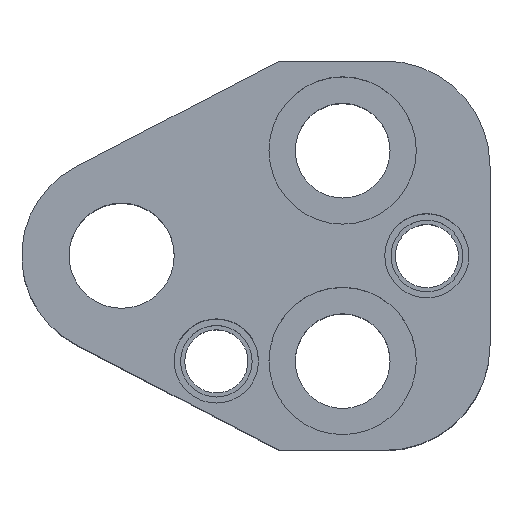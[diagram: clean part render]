
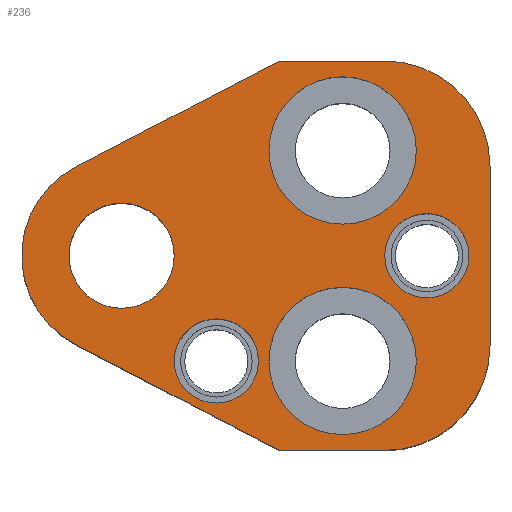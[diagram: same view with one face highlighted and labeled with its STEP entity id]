
A CAD part, top view. The second image highlights one B-rep face of the part: STEP entity #236.
In plain terms, the highlighted planar face has unit normal (0, 0, 1).
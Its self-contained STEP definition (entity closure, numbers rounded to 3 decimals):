
#107=FACE_BOUND('',#331,.T.);
#108=FACE_BOUND('',#332,.T.);
#109=FACE_BOUND('',#333,.T.);
#110=FACE_BOUND('',#334,.T.);
#111=FACE_BOUND('',#335,.T.);
#112=FACE_BOUND('',#336,.T.);
#152=CIRCLE('',#816,10.);
#154=CIRCLE('',#820,10.);
#157=CIRCLE('',#826,9.5);
#174=CIRCLE('',#854,4.);
#176=CIRCLE('',#857,4.);
#178=CIRCLE('',#861,4.);
#180=CIRCLE('',#864,4.);
#190=CIRCLE('',#880,7.);
#191=CIRCLE('',#881,7.);
#192=CIRCLE('',#882,7.);
#193=CIRCLE('',#883,7.);
#194=CIRCLE('',#884,5.);
#195=CIRCLE('',#885,5.);
#236=ADVANCED_FACE('',(#107,#108,#109,#110,#111,#112),#260,.T.);
#260=PLANE('',#886);
#331=EDGE_LOOP('',(#471,#472,#473,#474,#475,#476,#477,#478));
#332=EDGE_LOOP('',(#479,#480));
#333=EDGE_LOOP('',(#481,#482));
#334=EDGE_LOOP('',(#483,#484));
#335=EDGE_LOOP('',(#485,#486));
#336=EDGE_LOOP('',(#487,#488));
#471=ORIENTED_EDGE('',*,*,#626,.T.);
#472=ORIENTED_EDGE('',*,*,#630,.T.);
#473=ORIENTED_EDGE('',*,*,#633,.T.);
#474=ORIENTED_EDGE('',*,*,#636,.T.);
#475=ORIENTED_EDGE('',*,*,#639,.T.);
#476=ORIENTED_EDGE('',*,*,#642,.T.);
#477=ORIENTED_EDGE('',*,*,#645,.T.);
#478=ORIENTED_EDGE('',*,*,#648,.T.);
#479=ORIENTED_EDGE('',*,*,#697,.F.);
#480=ORIENTED_EDGE('',*,*,#698,.F.);
#481=ORIENTED_EDGE('',*,*,#699,.F.);
#482=ORIENTED_EDGE('',*,*,#700,.F.);
#483=ORIENTED_EDGE('',*,*,#683,.F.);
#484=ORIENTED_EDGE('',*,*,#679,.F.);
#485=ORIENTED_EDGE('',*,*,#677,.F.);
#486=ORIENTED_EDGE('',*,*,#673,.F.);
#487=ORIENTED_EDGE('',*,*,#701,.T.);
#488=ORIENTED_EDGE('',*,*,#702,.T.);
#560=VERTEX_POINT('',#1160);
#561=VERTEX_POINT('',#1162);
#564=VERTEX_POINT('',#1169);
#566=VERTEX_POINT('',#1175);
#568=VERTEX_POINT('',#1181);
#570=VERTEX_POINT('',#1187);
#572=VERTEX_POINT('',#1193);
#574=VERTEX_POINT('',#1199);
#591=VERTEX_POINT('',#1257);
#592=VERTEX_POINT('',#1258);
#595=VERTEX_POINT('',#1270);
#596=VERTEX_POINT('',#1271);
#607=VERTEX_POINT('',#1307);
#608=VERTEX_POINT('',#1308);
#609=VERTEX_POINT('',#1311);
#610=VERTEX_POINT('',#1312);
#611=VERTEX_POINT('',#1315);
#612=VERTEX_POINT('',#1316);
#626=EDGE_CURVE('',#561,#560,#726,.T.);
#630=EDGE_CURVE('',#560,#564,#730,.T.);
#633=EDGE_CURVE('',#564,#566,#152,.T.);
#636=EDGE_CURVE('',#566,#568,#734,.T.);
#639=EDGE_CURVE('',#568,#570,#154,.T.);
#642=EDGE_CURVE('',#570,#572,#738,.T.);
#645=EDGE_CURVE('',#572,#574,#741,.T.);
#648=EDGE_CURVE('',#574,#561,#157,.T.);
#673=EDGE_CURVE('',#591,#592,#174,.T.);
#677=EDGE_CURVE('',#592,#591,#176,.T.);
#679=EDGE_CURVE('',#595,#596,#178,.T.);
#683=EDGE_CURVE('',#596,#595,#180,.T.);
#697=EDGE_CURVE('',#607,#608,#190,.T.);
#698=EDGE_CURVE('',#608,#607,#191,.T.);
#699=EDGE_CURVE('',#609,#610,#192,.T.);
#700=EDGE_CURVE('',#610,#609,#193,.T.);
#701=EDGE_CURVE('',#611,#612,#194,.T.);
#702=EDGE_CURVE('',#612,#611,#195,.T.);
#726=LINE('',#1161,#770);
#730=LINE('',#1170,#774);
#734=LINE('',#1182,#778);
#738=LINE('',#1194,#782);
#741=LINE('',#1200,#785);
#770=VECTOR('',#916,1.);
#774=VECTOR('',#922,1.);
#778=VECTOR('',#934,1.);
#782=VECTOR('',#946,1.);
#785=VECTOR('',#951,1.);
#816=AXIS2_PLACEMENT_3D('',#1176,#927,#928);
#820=AXIS2_PLACEMENT_3D('',#1188,#939,#940);
#826=AXIS2_PLACEMENT_3D('',#1204,#957,#958);
#854=AXIS2_PLACEMENT_3D('',#1256,#1021,#1022);
#857=AXIS2_PLACEMENT_3D('',#1265,#1029,#1030);
#861=AXIS2_PLACEMENT_3D('',#1269,#1037,#1038);
#864=AXIS2_PLACEMENT_3D('',#1278,#1045,#1046);
#880=AXIS2_PLACEMENT_3D('',#1306,#1081,#1082);
#881=AXIS2_PLACEMENT_3D('',#1309,#1083,#1084);
#882=AXIS2_PLACEMENT_3D('',#1310,#1085,#1086);
#883=AXIS2_PLACEMENT_3D('',#1313,#1087,#1088);
#884=AXIS2_PLACEMENT_3D('',#1314,#1089,#1090);
#885=AXIS2_PLACEMENT_3D('',#1317,#1091,#1092);
#886=AXIS2_PLACEMENT_3D('',#1318,#1093,#1094);
#916=DIRECTION('',(0.887,-0.461,0.));
#922=DIRECTION('',(1.,0.,0.));
#927=DIRECTION('',(0.,0.,1.));
#928=DIRECTION('',(-0.707,0.707,0.));
#934=DIRECTION('',(0.,1.,0.));
#939=DIRECTION('',(0.,0.,1.));
#940=DIRECTION('',(-0.707,-0.707,0.));
#946=DIRECTION('',(-1.,0.,0.));
#951=DIRECTION('',(-0.887,-0.461,0.));
#957=DIRECTION('',(0.,0.,1.));
#958=DIRECTION('',(1.,0.,0.));
#1021=DIRECTION('',(0.,0.,1.));
#1022=DIRECTION('',(-1.,0.,0.));
#1029=DIRECTION('',(0.,0.,1.));
#1030=DIRECTION('',(1.,0.,0.));
#1037=DIRECTION('',(0.,0.,1.));
#1038=DIRECTION('',(-1.,0.,0.));
#1045=DIRECTION('',(0.,0.,1.));
#1046=DIRECTION('',(1.,0.,0.));
#1081=DIRECTION('',(0.,0.,1.));
#1082=DIRECTION('',(1.,0.,0.));
#1083=DIRECTION('',(0.,0.,1.));
#1084=DIRECTION('',(-1.,0.,0.));
#1085=DIRECTION('',(0.,0.,1.));
#1086=DIRECTION('',(1.,0.,0.));
#1087=DIRECTION('',(0.,0.,1.));
#1088=DIRECTION('',(-1.,0.,0.));
#1089=DIRECTION('',(0.,0.,-1.));
#1090=DIRECTION('',(0.,-1.,0.));
#1091=DIRECTION('',(0.,0.,-1.));
#1092=DIRECTION('',(0.,1.,0.));
#1093=DIRECTION('',(0.,0.,1.));
#1094=DIRECTION('',(0.887,-0.461,0.));
#1160=CARTESIAN_POINT('',(15.,-18.5,30.));
#1161=CARTESIAN_POINT('',(15.,-18.5,30.));
#1162=CARTESIAN_POINT('',(-4.38,-8.43,30.));
#1169=CARTESIAN_POINT('',(25.,-18.5,30.));
#1170=CARTESIAN_POINT('',(15.,-18.5,30.));
#1175=CARTESIAN_POINT('',(35.,-8.5,30.));
#1176=CARTESIAN_POINT('',(25.,-8.5,30.));
#1181=CARTESIAN_POINT('',(35.,8.5,30.));
#1182=CARTESIAN_POINT('',(35.,8.5,30.));
#1187=CARTESIAN_POINT('',(25.,18.5,30.));
#1188=CARTESIAN_POINT('',(25.,8.5,30.));
#1193=CARTESIAN_POINT('',(15.,18.5,30.));
#1194=CARTESIAN_POINT('',(15.,18.5,30.));
#1199=CARTESIAN_POINT('',(-4.38,8.43,30.));
#1200=CARTESIAN_POINT('',(15.,18.5,30.));
#1204=CARTESIAN_POINT('',(0.,0.,30.));
#1256=CARTESIAN_POINT('',(9.,-10.,30.));
#1257=CARTESIAN_POINT('',(9.,-14.,30.));
#1258=CARTESIAN_POINT('',(9.,-6.,30.));
#1265=CARTESIAN_POINT('',(9.,-10.,30.));
#1269=CARTESIAN_POINT('',(29.,0.,30.));
#1270=CARTESIAN_POINT('',(29.,-4.,30.));
#1271=CARTESIAN_POINT('',(29.,4.,30.));
#1278=CARTESIAN_POINT('',(29.,0.,30.));
#1306=CARTESIAN_POINT('',(21.,-10.,30.));
#1307=CARTESIAN_POINT('',(21.,-3.,30.));
#1308=CARTESIAN_POINT('',(21.,-17.,30.));
#1309=CARTESIAN_POINT('',(21.,-10.,30.));
#1310=CARTESIAN_POINT('',(21.,10.,30.));
#1311=CARTESIAN_POINT('',(21.,17.,30.));
#1312=CARTESIAN_POINT('',(21.,3.,30.));
#1313=CARTESIAN_POINT('',(21.,10.,30.));
#1314=CARTESIAN_POINT('',(0.,0.,30.));
#1315=CARTESIAN_POINT('',(-5.,0.,30.));
#1316=CARTESIAN_POINT('',(5.,0.,30.));
#1317=CARTESIAN_POINT('',(0.,0.,30.));
#1318=CARTESIAN_POINT('',(-4.38,-8.43,30.));
